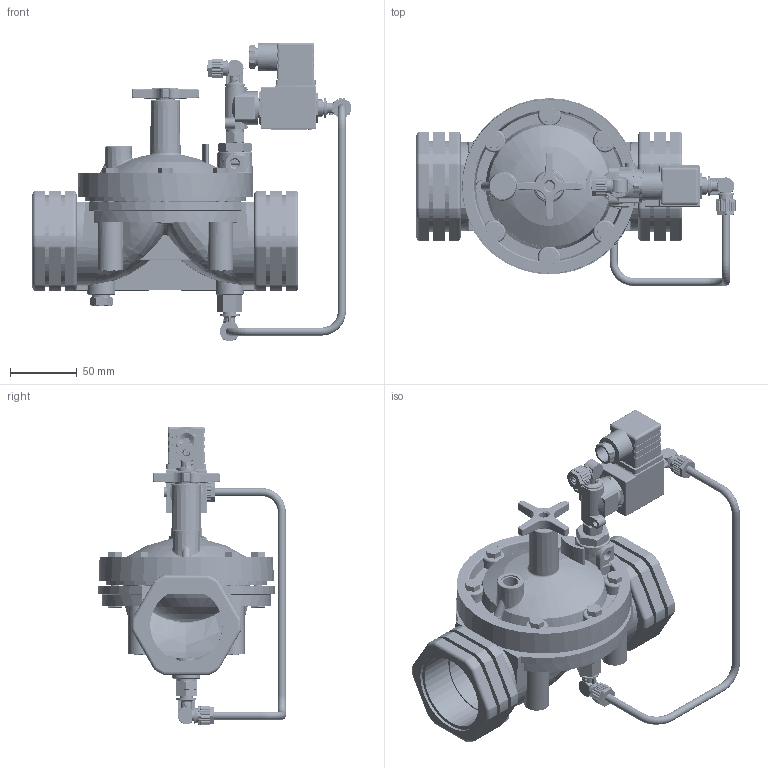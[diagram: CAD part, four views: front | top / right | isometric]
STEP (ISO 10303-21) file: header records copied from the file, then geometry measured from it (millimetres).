
FILE_DESCRIPTION(('STEP AP214'),'1');
FILE_NAME('7757520310T','2012-09-05T05:34:43',('dafnaraz'),(' '),'Spatial InterOp 3D',' ',' ');
FILE_SCHEMA(('automotive_design'));
Length unit declared in the file: millimetre
Products named in the file (34): 7757520310T.1; goof2; dia21; koshya; bonnet bac-t-3W; 14x72; 14x38; un14; pkanpt14; 6476; adapter; union-1_4; solo-3w-2; body; solo1; solo2; zpc1-8x6; filter1-4x1-8; body_1; screen; se67995; zpc1-4x6; 6mm; pipe
Assembly tree (35 placements, depth 3):
  7757520310T.1
    goof2
    dia21
    koshya
    bonnet bac-t-3W
    14x72
    14x38
    un14
    pkanpt14
    un14
    14x72
    14x72
    14x72
    14x38
    un14
    un14
    un14
    un14
    6476
    adapter
    union-1_4
    solo-3w-2
      body
      solo1
      solo2
    zpc1-8x6
    zpc1-8x6
    filter1-4x1-8
      body_1
      screen
      se67995
    zpc1-4x6
    6mm  x3
    pipe
Bounding box: 238.8 x 140.4 x 223.6 mm (x, y, z)
Volume: 252896.8 mm3; surface area: 294904.7 mm2
Topology: 18 solids, 1232 shells, 5007 faces, 16667 edges, 12834 vertices
Faces by surface type: cylinder 2914, plane 972, torus 387, cone 323, bspline 282, sphere 80, extrusion 44, revolution 5
Entity records: 359600 total; most frequent: CARTESIAN_POINT 155803, ORIENTED_EDGE 24512, DIRECTION 20777, EDGE_CURVE 14716, STYLED_ITEM 12918, PRESENTATION_STYLE_ASSIGNMENT 12918, COLOUR_RGB 12918, VERTEX_POINT 11268
